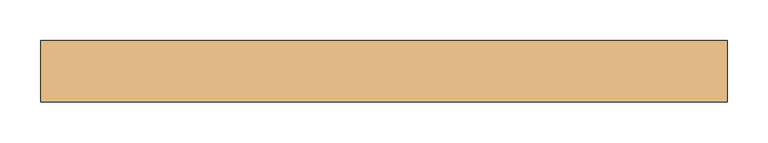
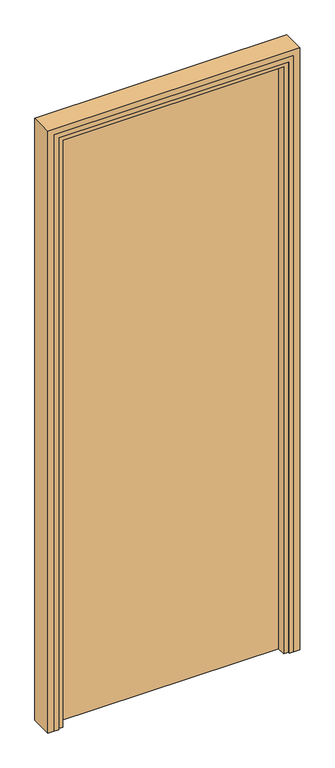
"""IFC4 building model written with IfcOpenShell, lengths in millimetres: door geometry, VERTI PANORAMA - dveřní panel : PANORAMA - dveřní panel."""

from ifc_helpers import new_model, si_unit, frame, origin, origin_with_axes, place, context, project, spatial, polyline, outline, extrude, faceted_brep, source, transform, mapped, element, save


def door_937f1649(model_context):
    return source(origin(), model_context, "Body", "SolidModel", [
        extrude(outline(polyline([(384.0, -2.5), (-384.0, -2.5), (-384.0, 5.5), (384.0, 5.5), (384.0, -2.5)])), origin_with_axes(), (0.0, 0.0, 1.0), 2084.0),
        extrude(outline(polyline([(0.0, 400.0), (0.0, 420.0), (2120.0, 420.0), (2120.0, -420.0), (0.0, -420.0), (0.0, -400.0), (2100.0, -400.0), (2100.0, 400.0), (0.0, 400.0)])), frame((0.0, -37.5, 0.0), z_axis=(0.0, 1.0, 0.0), x_axis=(0.0, 0.0, 1.0)), (0.0, 0.0, 1.0), 75.0),
        faceted_brep([(-384.0, -37.5, 0.0), (-400.0, -37.5, 0.0), (-400.0, 37.5, 0.0), (-384.0, 37.5, 0.0), (-384.0, -2.5, 0.0), (-368.0, -2.5, 0.0), (-368.0, -32.5, 0.0), (-384.0, -32.5, 0.0), (-384.0, -37.5, 2084.0), (384.0, -37.5, 2084.0), (384.0, -37.5, 0.0), (400.0, -37.5, 0.0), (400.0, -37.5, 2100.0), (-400.0, -37.5, 2100.0), (-400.0, 37.5, 2100.0), (400.0, 37.5, 2100.0), (400.0, 37.5, 0.0), (384.0, 37.5, 0.0), (384.0, 37.5, 2084.0), (-384.0, 37.5, 2084.0), (-384.0, -2.5, 2084.0), (384.0, -2.5, 2084.0), (384.0, -2.5, 0.0), (368.0, -2.5, 0.0), (368.0, -2.5, 2068.0), (-368.0, -2.5, 2068.0), (-368.0, -32.5, 2068.0), (368.0, -32.5, 2068.0), (368.0, -32.5, 0.0), (384.0, -32.5, 0.0), (384.0, -32.5, 2084.0), (-384.0, -32.5, 2084.0)], [[[0, 1, 2, 3, 4, 5, 6, 7]], [[1, 0, 8, 9, 10, 11, 12, 13]], [[2, 1, 13, 14]], [[3, 2, 14, 15, 16, 17, 18, 19]], [[4, 3, 19, 20]], [[5, 4, 20, 21, 22, 23, 24, 25]], [[6, 5, 25, 26]], [[7, 6, 26, 27, 28, 29, 30, 31]], [[0, 7, 31, 8]], [[9, 30, 29, 10]], [[10, 29, 28, 23, 22, 17, 16, 11]], [[15, 12, 11, 16]], [[21, 18, 17, 22]], [[27, 24, 23, 28]], [[8, 31, 30, 9]], [[14, 13, 12, 15]], [[20, 19, 18, 21]], [[26, 25, 24, 27]]]),
    ])


if __name__ == "__main__":
    model = new_model("IFC4")
    model_context = context("Model", 3, world=origin())
    ifc_project = project(units=[si_unit("LENGTHUNIT", "METRE", prefix="MILLI")], contexts=[model_context])
    site = spatial("IfcSite", under=ifc_project)
    building = spatial("IfcBuilding", under=site)
    placement = place(None, origin())
    door_shape = door_937f1649(model_context)
    element("IfcDoor", 1, ObjectType="VERTI PANORAMA - dveřní panel : PANORAMA - dveřní panel", at=placement, inside=building, context=model_context, shape_type="MappedRepresentation", body=[
        mapped(door_shape, transform((0.0, 0.0, 0.0), x_axis=(1.0, 0.0, 0.0), y_axis=(0.0, 1.0, 0.0), z_axis=(0.0, 0.0, 1.0))),
    ])
    save(model, "model.ifc")
